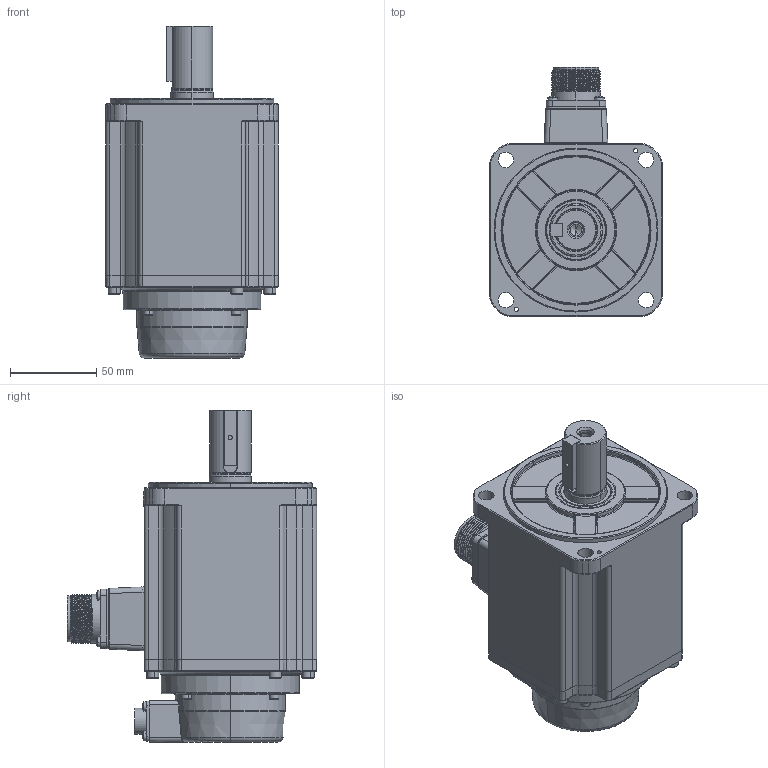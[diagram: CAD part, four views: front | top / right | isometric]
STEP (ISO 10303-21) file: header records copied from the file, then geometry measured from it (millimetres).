
FILE_DESCRIPTION (( 'STEP AP214' ), '1' );
FILE_NAME ('RSK1-S-100-1.5kw.STEP', '2024-08-22T06:45:24', ( '' ), ( '' ), 'SwSTEP 2.0', 'SolidWorks 2020', '' );
FILE_SCHEMA (( 'AUTOMOTIVE_DESIGN' ));
Length unit declared in the file: millimetre
Products named in the file (14): 内六角圆柱头和平垫圈组合螺钉_M3x16; 坋趼羞攫芛蹟隊_M3x30; 100-S-24粣噤; 内六角圆柱头螺钉_M4x16; す瑩_B8x7x32; 130雄薯瑤脣價釱; RSK1-S-100-1.5kw; 100-S-1.5kw儂褲; 130梓袧綴裔; ﾊｮﾗﾖｲﾛﾅﾌﾍｷﾗﾔｼｷﾂﾝｶ､_M3x8; 4140000005_电机内部编码器线_7x26AWG(0.1m-CMV1-10芯螺纹插座_GACJ3045); 蚐猾_TC25x35x5; 100-梓袧綴傷裔; 雄薯瑤脣
Assembly tree (25 placements, depth 2):
  RSK1-S-100-1.5kw
    100-S-1.5kw儂褲
    100-梓袧綴傷裔
    坋趼羞攫芛蹟隊_M3x30  x4
    130雄薯瑤脣價釱
    雄薯瑤脣
    内六角圆柱头螺钉_M4x16  x4
    130梓袧綴裔
    4140000005_电机内部编码器线_7x26AWG(0.1m-CMV1-10芯螺纹插座_GACJ3045)
    ﾊｮﾗﾖｲﾛﾅﾌﾍｷﾗﾔｼｷﾂﾝｶ､_M3x8  x4
    内六角圆柱头和平垫圈组合螺钉_M3x16  x4
    100-S-24粣噤
    す瑩_B8x7x32
    蚐猾_TC25x35x5
Bounding box: 100 x 144.4 x 192.4 mm (x, y, z)
Volume: 1158007.1 mm3; surface area: 142516.9 mm2
Topology: 35 solids, 35 shells, 2542 faces, 6328 edges, 3941 vertices
Faces by surface type: plane 1233, cylinder 653, cone 290, torus 174, bspline 132, sphere 60
Entity records: 92903 total; most frequent: CARTESIAN_POINT 24171, DIRECTION 10968, ORIENTED_EDGE 10960, EDGE_CURVE 5480, AXIS2_PLACEMENT_3D 3836, VERTEX_POINT 3455, VECTOR 3296, LINE 3296
